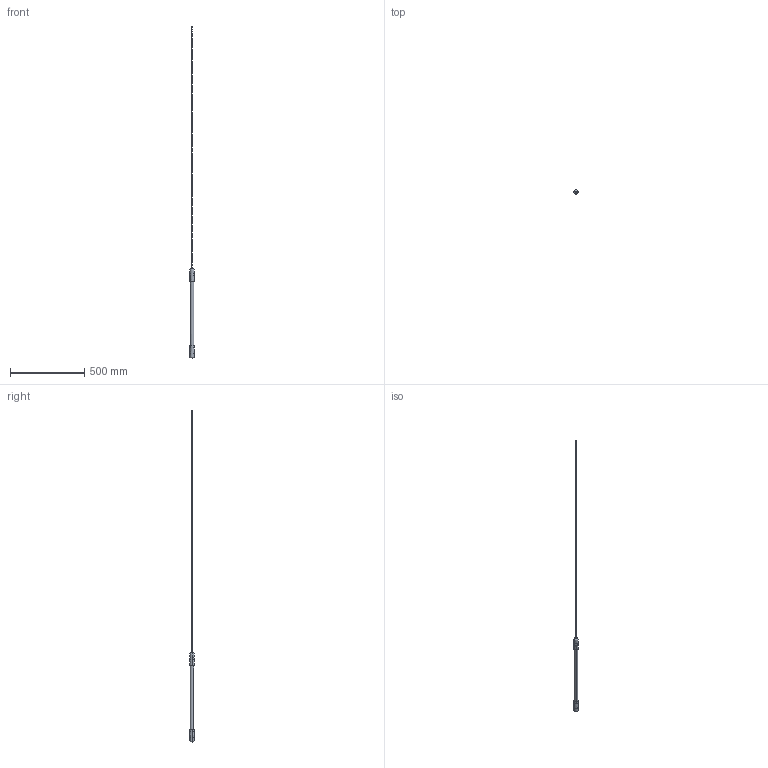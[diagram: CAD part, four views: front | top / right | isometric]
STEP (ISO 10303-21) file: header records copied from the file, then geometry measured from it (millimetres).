
FILE_DESCRIPTION(/* description */ (''),/* implementation_level */ '2;1');
FILE_NAME(/* name */ '11ZPSI~S',/* time_stamp */ '2026-03-05T15:47:40+01:00',/* author */ (''),/* organization */ (''),/* preprocessor_version */ 'ST-DEVELOPER v16.5',/* originating_system */ '',/* authorisation */ '');
FILE_SCHEMA (('AUTOMOTIVE_DESIGN'));
Length unit declared in the file: millimetre
Products named in the file (1): Document
Bounding box: 28.12 x 28.1 x 2231.26 mm (x, y, z)
Volume: 249593.4 mm3; surface area: 149397.6 mm2
Topology: 5 solids, 5 shells, 28 faces, 54 edges, 30 vertices
Faces by surface type: bspline 28
Entity records: 1823 total; most frequent: CARTESIAN_POINT 1164, ORIENTED_EDGE 100, PCURVE 100, DEFINITIONAL_REPRESENTATION 100, B_SPLINE_CURVE_WITH_KNOTS 98, SURFACE_CURVE 50, EDGE_CURVE 50, EDGE_LOOP 30
